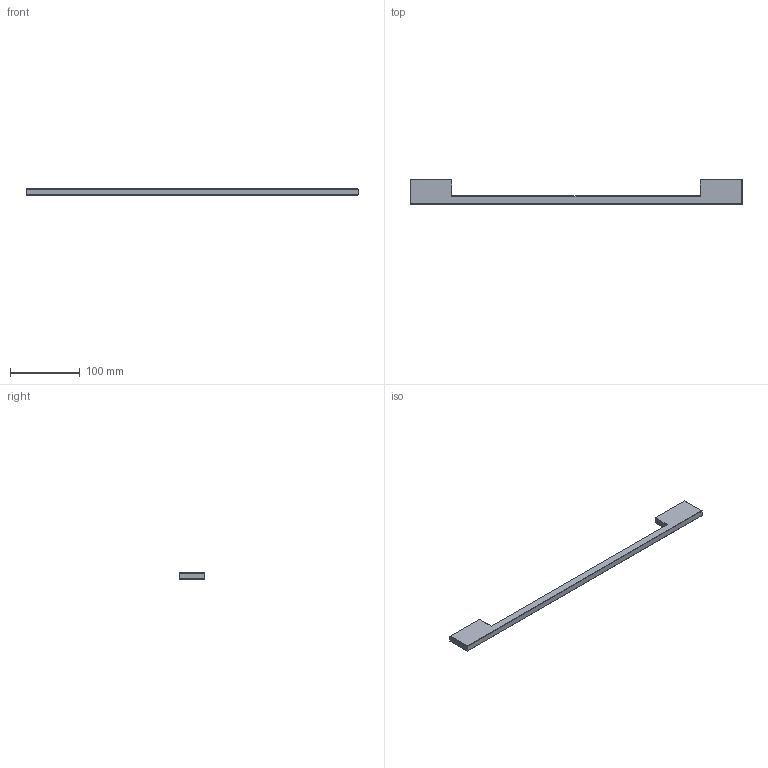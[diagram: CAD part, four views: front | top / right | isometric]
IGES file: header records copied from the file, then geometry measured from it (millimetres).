
Start section: Data from Parasolid IGES Translator 15.0.47, Copyright(c) 2006 Siemens P LM Software. All Rights Reserved.
Global section: file name: 9995588.igs; native system:  By UGS Corp.; preprocessor: XPlus GENERIC/IGES 3.0; author: Noname; organization: Noname; date: 20140122.183128; units: millimetre
Bounding box: 476 x 35.01 x 9.01 mm (x, y, z)
Surface area: 25950.3 mm2 (no closed solid volume)
Topology: 0 solids, 0 shells, 24 faces, 112 edges, 110 vertices
Faces by surface type: revolution 13, extrusion 11
